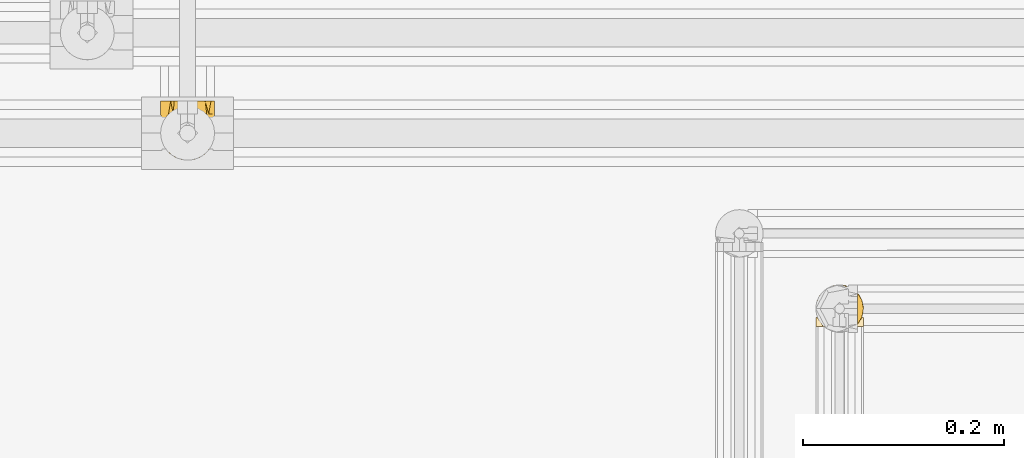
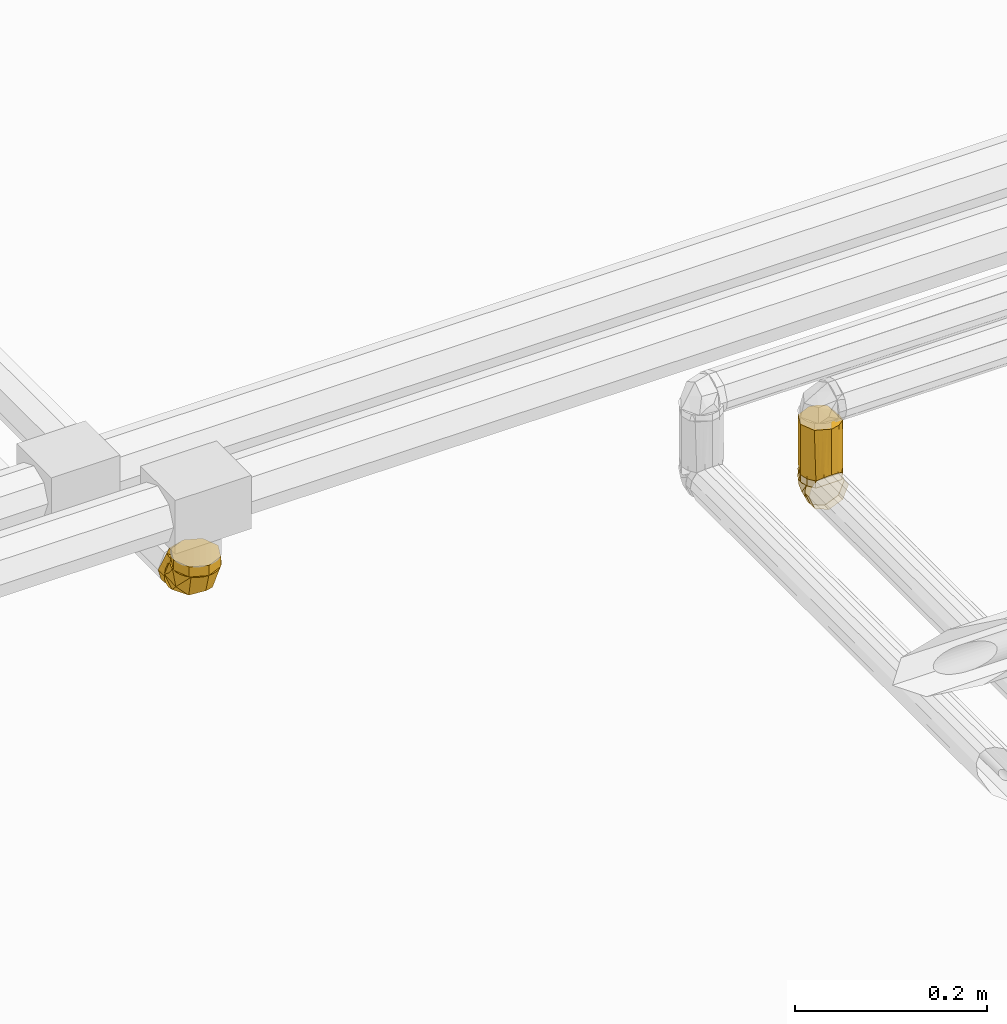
# One storey, part 352 of 652: 3 coverings.
"""IFC2X3 building model written with IfcOpenShell, lengths in millimetres."""

import ifcopenshell
import ifcopenshell.guid

model = None  # the IFC model being written
_history = None  # IfcOwnerHistory: only IFC2X3 demands one
_inside = {}  # id of a spatial element -> (the spatial element, [elements in it])
_under = {}  # id of a project, library or spatial element -> (it, [spatial elements below it])
_declared = {}  # id of a project -> (the project, [libraries it declares])
_typed = {}  # id of a type object -> (the type object, [elements of that type])
_made_of = {}  # id of a material, layer set ... -> (it, [elements and type objects made of it])


def new_model(schema):
    """Start an empty IFC model of exactly this schema.

    Asked for "IFC4X3", IfcOpenShell would pick the latest addendum, in which some entities
    have other attributes; the version numbers below select the first issue.
    IFC2X3 requires an IfcOwnerHistory on every rooted entity: one is made here for all.
    """
    global model, _history
    if schema == "IFC4X3":
        model = ifcopenshell.file(schema_version=(4, 3, 0, 0))
    else:
        model = ifcopenshell.file(schema=schema)
    _inside.clear()
    _under.clear()
    _declared.clear()
    _typed.clear()
    _made_of.clear()
    _history = None
    if model.schema == "IFC2X3":
        org = make("IfcOrganization", Name="unknown")
        user = make(
            "IfcPersonAndOrganization",
            ThePerson=make("IfcPerson", FamilyName="unknown"),
            TheOrganization=org,
        )
        app = make(
            "IfcApplication",
            ApplicationDeveloper=org,
            Version="unknown",
            ApplicationFullName="unknown",
            ApplicationIdentifier="unknown",
        )
        _history = make(
            "IfcOwnerHistory",
            OwningUser=user,
            OwningApplication=app,
            ChangeAction="ADDED",
            CreationDate=0,
        )
    return model


def make(cls, **values):
    """One entity of the class cls with the attributes given. An attribute that is None is left unset."""
    return model.create_entity(
        cls, **{name: value for name, value in values.items() if value is not None}
    )


def entity(cls, *values):
    """Any entity or typed value of the class cls, its attributes in the order of the schema. None: left unset."""
    e = model.create_entity(cls)
    for i, value in enumerate(values):
        if value is not None:
            e[i] = value
    return e


def rooted(cls, **values):
    """An entity with a GlobalId (a new one), such as an element, a storey or a relation."""
    return make(cls, GlobalId=ifcopenshell.guid.new(), OwnerHistory=_history, **values)


def si_unit(unit_type, name, prefix=None):
    """IfcSIUnit, for example si_unit("LENGTHUNIT", "METRE", prefix="MILLI")."""
    return make("IfcSIUnit", UnitType=unit_type, Prefix=prefix, Name=name)


def converted_unit(unit_type, name, factor, base, dimensions=None, offset=None):
    """IfcConversionBasedUnit, such as the inch: factor (a typed value) times the base unit."""
    return make(
        "IfcConversionBasedUnit"
        if offset is None
        else "IfcConversionBasedUnitWithOffset",
        ConversionOffset=offset,
        Dimensions=None
        if dimensions is None
        else entity("IfcDimensionalExponents", *dimensions),
        UnitType=unit_type,
        Name=name,
        ConversionFactor=make(
            "IfcMeasureWithUnit", ValueComponent=factor, UnitComponent=base
        ),
    )


def assignment(units):
    """IfcUnitAssignment: the units of a project."""
    return None if units is None else make("IfcUnitAssignment", Units=units)


def point(xyz):
    """IfcCartesianPoint."""
    return None if xyz is None else make("IfcCartesianPoint", Coordinates=xyz)


def direction(xyz):
    """IfcDirection."""
    return None if xyz is None else make("IfcDirection", DirectionRatios=xyz)


def frame(location, z_axis=None, x_axis=None):
    """IfcAxis2Placement3D, a coordinate frame: its origin and axes. An axis left out is left unset."""
    return make(
        "IfcAxis2Placement3D",
        Location=point(location),
        Axis=direction(z_axis),
        RefDirection=direction(x_axis),
    )


def origin():
    """The frame at (0, 0, 0) with its axes left unset."""
    return frame((0.0, 0.0, 0.0))


def place(relative_to, where):
    """IfcLocalPlacement: puts the frame where relative to a parent placement (None: the world)."""
    return make(
        "IfcLocalPlacement", PlacementRelTo=relative_to, RelativePlacement=where
    )


def context(
    kind, dimensions, precision=None, world=None, true_north=None, identifier=None
):
    """IfcGeometricRepresentationContext, for example the 3D "Model" context."""
    return make(
        "IfcGeometricRepresentationContext",
        ContextIdentifier=identifier,
        ContextType=kind,
        CoordinateSpaceDimension=dimensions,
        Precision=precision,
        WorldCoordinateSystem=world,
        TrueNorth=true_north,
    )


def subcontext(parent, identifier, kind, view, scale=None):
    """IfcGeometricRepresentationSubContext, for example "Body" below "Model"."""
    return make(
        "IfcGeometricRepresentationSubContext",
        ContextIdentifier=identifier,
        ContextType=kind,
        ParentContext=parent,
        TargetScale=scale,
        TargetView=view,
    )


def project(units=None, contexts=None):
    """IfcProject with its units and contexts."""
    return rooted(
        "IfcProject",
        Name="project",
        RepresentationContexts=contexts,
        UnitsInContext=assignment(units),
    )


def spatial(cls, under=None, at=None, **own):
    """A site, building, storey or space (cls), placed at a placement, below another one or the project."""
    s = rooted(cls, ObjectPlacement=at, **own)
    if under is not None:
        _under.setdefault(under.id(), (under, []))[1].append(s)
    return s


def faces_of(points, faces, orient=None, outer=None):
    """IfcFace entities. A face is a list of loops; a loop is a list of indices into points, from 0.

    orient and outer hold one flag for each loop. By default every Orientation is true, the
    first loop of a face is its IfcFaceOuterBound and the others are IfcFaceBound.
    """
    made = []
    for i, loops in enumerate(faces):
        bounds = []
        for j, loop in enumerate(loops):
            is_outer = j == 0 if outer is None else outer[i][j]
            bounds.append(
                make(
                    "IfcFaceOuterBound" if is_outer else "IfcFaceBound",
                    Bound=make("IfcPolyLoop", Polygon=[points[k] for k in loop]),
                    Orientation=True if orient is None else orient[i][j],
                )
            )
        made.append(make("IfcFace", Bounds=bounds))
    return made


def face_set(faces, orient=None, outer=None):
    """The faces of one IfcConnectedFaceSet. surface_model builds it on its shared points."""
    return ("IfcConnectedFaceSet", faces, orient, outer)


def faceted_brep(points, faces, orient=None, outer=None, voids=None):
    """IfcFacetedBrep: a solid bounded by flat faces; with voids (closed shells), ...WithVoids."""
    shared = [point(p) for p in points]
    hull = make("IfcClosedShell", CfsFaces=faces_of(shared, faces, orient, outer))
    if voids is None:
        return make("IfcFacetedBrep", Outer=hull)
    return make(
        "IfcFacetedBrepWithVoids",
        Outer=hull,
        Voids=[
            make(cls, CfsFaces=faces_of(shared, fs, o, b)) for cls, fs, o, b in voids
        ],
    )


def surface_model(cls, points, shells):
    """IfcFaceBasedSurfaceModel or IfcShellBasedSurfaceModel (cls): surfaces that need not close."""
    shared = [point(p) for p in points]
    made = [make(c, CfsFaces=faces_of(shared, fs, o, b)) for c, fs, o, b in shells]
    if cls == "IfcFaceBasedSurfaceModel":
        return make(cls, FbsmFaces=made)
    return make(cls, SbsmBoundary=made)


def shape(context_of_items, identifier, shape_type, items):
    """IfcShapeRepresentation: the items that make up one representation, for example the "Body"."""
    return make(
        "IfcShapeRepresentation",
        ContextOfItems=context_of_items,
        RepresentationIdentifier=identifier,
        RepresentationType=shape_type,
        Items=items,
    )


def material(Name=None, Category=None):
    """IfcMaterial."""
    return make("IfcMaterial", Name=Name, Category=Category)


def made_of(thing, what):
    """Note that an element or type object is made of a material, layer set ...; save() writes the relation."""
    if what is not None:
        _made_of.setdefault(what.id(), (what, []))[1].append(thing)
    return thing


def type_object(cls, material=None, **own):
    """A type object (cls), such as IfcWallType, which elements share."""
    return made_of(rooted(cls, **own), material)


def element(
    cls,
    number,
    at=None,
    inside=None,
    cuts=None,
    type_object=None,
    material=None,
    context=None,
    identifier="Body",
    shape_type=None,
    held_by="IfcProductDefinitionShape",
    body=None,
    shapes=None,
    **own,
):
    """One element of the class cls, such as IfcWall. Its Tag is "e" and its number.

    at: its placement. inside: the storey or other place that contains it. cuts: it is an
    opening in that element (IfcRelVoidsElement). A single representation is given by context,
    identifier, shape_type and body (its items); several are given by shapes. held_by: the class
    of the entity that holds the representations. save() writes the other relations.
    """
    e = rooted(cls, Tag="e%d" % number, ObjectPlacement=at, **own)
    if body is not None:
        shapes = [shape(context, identifier, shape_type, body)]
    if shapes is not None:
        e.Representation = make(held_by, Representations=shapes)
    if inside is not None:
        _inside.setdefault(inside.id(), (inside, []))[1].append(e)
    if cuts is not None:
        rooted(
            "IfcRelVoidsElement", RelatingBuildingElement=cuts, RelatedOpeningElement=e
        )
    if type_object is not None:
        _typed.setdefault(type_object.id(), (type_object, []))[1].append(e)
    return made_of(e, material)


def aggregate(whole, parts):
    """IfcRelAggregates: a whole, such as a stair, and the parts it consists of."""
    return rooted("IfcRelAggregates", RelatingObject=whole, RelatedObjects=parts)


def save(model, path):
    """Write the relations noted so far, then the file.

    IfcRelAggregates (storeys below a building ...), IfcRelContainedInSpatialStructure (elements
    in a storey), IfcRelDefinesByType, IfcRelAssociatesMaterial and IfcRelDeclares: one each for
    every whole, place, type object, material and project.
    """
    for whole, parts in _under.values():
        aggregate(whole, parts)
    for where, things in _inside.values():
        rooted(
            "IfcRelContainedInSpatialStructure",
            RelatedElements=things,
            RelatingStructure=where,
        )
    for kind, things in _typed.values():
        rooted("IfcRelDefinesByType", RelatedObjects=things, RelatingType=kind)
    for what, things in _made_of.values():
        rooted("IfcRelAssociatesMaterial", RelatedObjects=things, RelatingMaterial=what)
    for by, libraries in _declared.values():
        rooted("IfcRelDeclares", RelatingContext=by, RelatedDefinitions=libraries)
    model.write(path)


model = new_model("IFC2X3")

# Units and contexts
model_context = context("Model", 3, precision=0.01, world=frame((0.0, 0.0, 308426.39999999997)), true_north=direction((6.123233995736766e-17, 1.0)))
plan_context = context("Plan", 3, precision=0.01, world=frame((0.0, 0.0, 308426.39999999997)), true_north=direction((6.123233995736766e-17, 1.0)))
body_context = subcontext(model_context, "Body", "Model", "MODEL_VIEW")
ifc_project = project(units=[si_unit("LENGTHUNIT", "METRE", prefix="MILLI"), si_unit("AREAUNIT", "SQUARE_METRE"), si_unit("VOLUMEUNIT", "CUBIC_METRE"), converted_unit("PLANEANGLEUNIT", "DEGREE", entity("IfcPlaneAngleMeasure", 0.017453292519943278), si_unit("PLANEANGLEUNIT", "RADIAN"), dimensions=[0, 0, 0, 0, 0, 0, 0])], contexts=[model_context, plan_context])

# Site, building, storey
site_placement = place(None, origin())
site = spatial("IfcSite", under=ifc_project, at=site_placement, Name="Default", CompositionType="ELEMENT")
building_placement = place(site_placement, origin())
building = spatial("IfcBuilding", under=site, at=building_placement, CompositionType="ELEMENT")
storey_placement = place(building_placement, frame((0.0, 0.0, 1730.6999999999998)))
storey = spatial("IfcBuildingStorey", under=building, at=storey_placement, Name="EG_Produktion_FFB", CompositionType="ELEMENT", Elevation=1730.6999999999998)

# Coverings
ifc_material = material(Name="Dämmung - Armaflex-Schlauch")
covering_type = type_object("IfcCoveringType", Name="Rohrdämmung außen:Armaflex-Schlauch", PredefinedType="INSULATION")
covering_1_placement = place(storey_placement, frame((47271.467227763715, 41496.4656774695, 3731.983750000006)))
element("IfcCovering", 1, at=covering_1_placement, inside=storey, type_object=covering_type, material=ifc_material, Name="Rohrdämmung außen:Armaflex-Schlauch", ObjectType="Rohrdämmung außen:Armaflex-Schlauch", PredefinedType="INSULATION", context=body_context, shape_type="SurfaceModel", body=[
    surface_model("IfcFaceBasedSurfaceModel", [(9.65642195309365, 47.750272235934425, -12.766250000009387), (51.38658262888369, 42.79223424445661, -12.766250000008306), (54.0915642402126, 37.040242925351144, -12.766250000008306), (55.37345654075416, 30.81456370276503, -12.766250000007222), (55.16088498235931, 24.461836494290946, -12.76625000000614), (53.465685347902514, 18.3357751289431, -12.76625000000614), (50.38224474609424, 12.777472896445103, -12.766250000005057), (46.08224622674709, 8.096410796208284, -12.766250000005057), (40.8051096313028, 4.553225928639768, -12.766250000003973), (34.844660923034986, 2.345199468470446, -12.766250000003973), (28.532772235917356, 1.5952722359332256, -12.766250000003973), (22.220883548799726, 2.345199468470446, -12.766250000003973), (16.26043484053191, 4.553225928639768, -12.766250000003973), (10.983298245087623, 8.096410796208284, -12.766250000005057), (6.683299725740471, 12.777472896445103, -12.766250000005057), (3.599859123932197, 18.3357751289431, -12.76625000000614), (1.904659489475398, 24.461836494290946, -12.76625000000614), (1.6920879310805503, 30.81456370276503, -12.766250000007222), (2.973980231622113, 37.040242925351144, -12.766250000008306), (5.678961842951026, 42.79223424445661, -12.766250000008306), (47.409122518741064, 47.750272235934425, -12.766250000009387), (5.678961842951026, 47.750272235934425, -17.724287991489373), (2.973980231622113, 47.750272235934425, -23.476279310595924), (1.6920879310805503, 47.750272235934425, -29.701958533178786), (1.904659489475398, 47.750272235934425, -36.0546857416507), (3.599859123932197, 47.750272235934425, -42.18074710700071), (6.683299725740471, 47.750272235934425, -47.7390493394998), (10.983298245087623, 47.75027223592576, -52.420111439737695), (16.26043484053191, 47.75027223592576, -55.96329630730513), (22.220883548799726, 47.75027223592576, -58.17132276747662), (28.532772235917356, 47.75027223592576, -58.92125000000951), (34.844660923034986, 47.75027223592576, -58.17132276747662), (40.8051096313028, 47.75027223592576, -55.963296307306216), (46.08224622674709, 47.75027223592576, -52.42011143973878), (50.38224474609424, 47.750272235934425, -47.7390493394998), (53.465685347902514, 47.750272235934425, -42.1807471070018), (55.16088498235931, 47.750272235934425, -36.0546857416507), (55.37345654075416, 47.750272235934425, -29.701958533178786), (54.0915642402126, 47.750272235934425, -23.476279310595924), (51.38658262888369, 47.750272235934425, -17.724287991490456), (2.2751428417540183, 39.06880739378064, -22.708823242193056), (28.53400514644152, 7.777694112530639, -35.843486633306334), (3.6006433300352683, 26.95326784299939, -33.5657186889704), (6.340011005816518, 19.45605104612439, -12.766406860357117), (28.53400514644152, 29.48799684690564, -48.376442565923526), (14.283712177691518, 18.67470338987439, -43.1837362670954), (6.340011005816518, 47.75199831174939, -41.06119140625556), (42.77964723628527, 18.67470338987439, -43.1837362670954), (54.78821657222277, 39.06880739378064, -22.708823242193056), (53.46736696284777, 26.95326784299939, -33.5657186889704), (50.72799928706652, 47.75199831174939, -41.06119140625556), (50.72799928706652, 19.45605104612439, -12.766406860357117), (14.247005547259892, 7.512630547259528, 0.0), (19.008927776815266, 5.54017777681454, 0.0), (23.77085000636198, 3.567725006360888, 0.0), (28.532772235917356, 1.5952722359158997, 0.0), (33.29469446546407, 3.567725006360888, 0.0), (38.05661669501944, 5.54017777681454, 0.0), (42.81853892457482, 7.512630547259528, 0.0), (47.5804611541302, 9.485083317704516, 0.0), (49.552913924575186, 14.247005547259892, 0.0), (51.525366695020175, 19.008927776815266, 0.0), (53.49781946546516, 23.77085000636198, 0.0), (55.47027223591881, 28.532772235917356, 0.0), (53.497819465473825, 33.29469446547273, 0.0), (51.525366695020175, 38.05661669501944, 0.0), (49.552913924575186, 42.81853892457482, 0.0), (47.5804611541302, 47.5804611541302, 0.0), (42.81853892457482, 49.552913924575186, 0.0), (38.05661669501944, 51.525366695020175, 0.0), (33.29469446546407, 53.49781946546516, 0.0), (28.532772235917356, 55.47027223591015, 0.0), (23.77085000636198, 53.497819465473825, 0.0), (19.008927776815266, 51.525366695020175, 0.0), (14.247005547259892, 49.552913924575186, 0.0), (9.485083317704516, 47.5804611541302, 0.0), (7.512630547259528, 42.81853892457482, 0.0), (5.54017777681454, 38.05661669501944, 0.0), (3.567725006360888, 33.29469446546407, 0.0), (1.5952722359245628, 28.532772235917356, 0.0), (3.567725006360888, 23.770850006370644, 0.0), (5.54017777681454, 19.008927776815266, 0.0), (7.512630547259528, 14.247005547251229, 0.0), (9.485083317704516, 9.485083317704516, 0.0), (28.532772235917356, 1.5952722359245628, -12.766250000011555), (23.77085000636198, 3.567725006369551, -12.766250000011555), (19.008927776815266, 5.54017777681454, -12.766250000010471), (14.247005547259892, 7.512630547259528, -12.766250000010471), (9.485083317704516, 9.48508331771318, -12.766250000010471), (7.095738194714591, 15.253472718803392, -12.766250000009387), (4.706393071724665, 21.02186211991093, -12.766250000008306), (1.5952722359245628, 28.532772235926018, -12.766250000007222), (3.567725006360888, 33.29469446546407, -12.76625000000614), (5.54017777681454, 38.05661669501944, -12.76625000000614), (7.512630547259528, 42.81853892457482, -12.766250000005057), (9.485083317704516, 47.58046115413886, -12.766250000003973), (15.253472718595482, 49.96980627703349, -12.766250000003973), (21.021862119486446, 52.35915139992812, -12.766250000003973), (28.532772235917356, 55.47027223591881, -12.766250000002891), (33.29469446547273, 53.49781946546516, -12.766250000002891), (38.05661669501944, 51.525366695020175, -12.766250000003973), (42.81853892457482, 49.552913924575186, -12.766250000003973), (47.5804611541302, 47.58046115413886, -12.766250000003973), (49.96980627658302, 41.8120717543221, -12.766250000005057), (52.359151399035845, 36.043682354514, -12.76625000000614), (55.47027223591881, 28.532772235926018, -12.766250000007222), (53.49781946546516, 23.77085000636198, -12.766250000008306), (51.525366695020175, 19.008927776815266, -12.766250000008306), (49.552913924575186, 14.247005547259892, -12.766250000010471), (47.5804611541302, 9.48508331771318, -12.766250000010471), (41.81207177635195, 7.095738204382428, -12.766250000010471), (36.0436823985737, 4.706393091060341, -12.766250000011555), (28.532772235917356, 60.51652223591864, -58.921250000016), (22.700632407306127, 60.516522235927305, -55.554062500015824), (16.868492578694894, 60.516522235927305, -52.18687500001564), (11.036352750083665, 60.516522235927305, -48.81968750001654), (5.204212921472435, 60.51652223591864, -45.45250000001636), (3.3997425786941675, 60.51652223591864, -38.718125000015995), (1.5952722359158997, 60.51652223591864, -31.983750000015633), (4.962459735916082, 60.516522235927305, -26.151610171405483), (8.329647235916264, 60.516522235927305, -20.319470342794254), (11.696834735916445, 60.51652223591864, -14.487330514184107), (15.064022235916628, 60.51652223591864, -8.655190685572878), (21.79839723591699, 60.51652223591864, -6.850720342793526), (28.532772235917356, 60.51652223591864, -5.046250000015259), (34.36491206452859, 60.516522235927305, -8.41343750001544), (40.197051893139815, 60.516522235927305, -11.780625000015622), (46.02919172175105, 60.516522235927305, -15.147812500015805), (51.86133155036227, 60.51652223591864, -18.515000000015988), (53.66580189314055, 60.51652223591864, -25.24937500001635), (55.47027223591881, 60.51652223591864, -31.983750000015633), (52.10308473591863, 60.516522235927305, -37.81588982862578), (48.73589723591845, 60.516522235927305, -43.64802965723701), (45.368709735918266, 60.516522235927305, -49.480169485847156), (42.00152223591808, 60.51652223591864, -55.31230931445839), (35.26714723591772, 60.51652223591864, -57.116779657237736), (28.532772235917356, 47.75027223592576, -58.921250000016), (33.29469446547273, 47.75027223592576, -56.948797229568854), (38.05661669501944, 47.75027223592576, -54.9763444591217), (42.81853892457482, 47.75027223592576, -53.00389168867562), (47.5804611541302, 47.75027223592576, -51.031438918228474), (49.552913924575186, 47.75027223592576, -46.26951668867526), (51.525366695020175, 47.75027223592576, -41.50759445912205), (53.49781946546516, 47.75027223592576, -36.74567222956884), (55.47027223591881, 47.75027223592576, -31.983750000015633), (53.497819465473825, 47.75027223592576, -27.221827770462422), (51.525366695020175, 47.75027223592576, -22.45990554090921), (49.552913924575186, 47.75027223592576, -17.697983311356), (47.5804611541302, 47.75027223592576, -12.936061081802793), (42.81853892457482, 47.75027223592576, -10.96360831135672), (38.05661669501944, 47.75027223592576, -8.991155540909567), (33.29469446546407, 47.75027223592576, -7.018702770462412), (28.532772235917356, 47.75027223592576, -5.046250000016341), (23.77085000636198, 47.75027223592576, -7.018702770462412), (19.008927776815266, 47.75027223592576, -8.991155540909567), (14.247005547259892, 47.75027223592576, -10.963608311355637), (9.485083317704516, 47.75027223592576, -12.936061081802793), (7.512630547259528, 47.75027223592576, -17.697983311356), (5.54017777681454, 47.75027223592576, -22.45990554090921), (3.567725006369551, 47.75027223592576, -27.221827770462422), (1.5952722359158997, 47.75027223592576, -31.983750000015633), (3.567725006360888, 47.75027223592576, -36.74567222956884), (5.54017777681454, 47.75027223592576, -41.50759445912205), (7.512630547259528, 47.75027223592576, -46.26951668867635), (9.485083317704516, 47.75027223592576, -51.031438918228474), (14.247005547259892, 47.75027223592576, -53.00389168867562), (19.008927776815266, 47.75027223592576, -54.9763444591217), (23.77085000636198, 47.75027223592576, -56.948797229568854)], [face_set([[[0, 1, 2, 3, 4, 5, 6, 7, 8, 9, 10, 11, 12, 13, 14, 15, 16, 17, 18, 19]], [[20, 21, 22, 23, 24, 25, 26, 27, 28, 29, 30, 31, 32, 33, 34, 35, 36, 37, 38, 39]], [[0, 40, 17]], [[10, 13, 41]], [[23, 42, 40]], [[42, 13, 43]], [[23, 40, 0]], [[17, 40, 42]], [[44, 41, 45]], [[13, 45, 41]], [[27, 30, 44]], [[44, 45, 27]], [[42, 27, 45]], [[42, 23, 46]], [[13, 42, 45]], [[43, 17, 42]], [[46, 27, 42]], [[7, 10, 41]], [[33, 47, 44]], [[44, 30, 33]], [[48, 49, 37]], [[49, 33, 50, 37]], [[3, 49, 48]], [[44, 47, 41]], [[20, 48, 37]], [[47, 49, 7]], [[3, 48, 20]], [[41, 47, 7]], [[49, 3, 51, 7]], [[33, 49, 47]]]), face_set([[[52, 53, 54, 55, 56, 57, 58, 59, 60, 61, 62, 63, 64, 65, 66, 67, 68, 69, 70, 71, 72, 73, 74, 75, 76, 77, 78, 79, 80, 81, 82, 83]], [[84, 85, 86, 87, 88, 89, 90, 91, 92, 93, 94, 95, 96, 97, 98, 99, 100, 101, 102, 103, 104, 105, 106, 107, 108, 109, 110, 111]], [[111, 110, 109, 59, 58, 57, 56, 55, 84]], [[59, 109, 108, 107, 106, 105, 63, 62, 61, 60]], [[104, 103, 102, 67, 66, 65, 64, 63, 105]], [[67, 102, 101, 100, 99, 98, 71, 70, 69, 68]], [[97, 96, 95, 75, 74, 73, 72, 71, 98]], [[75, 95, 94, 93, 92, 91, 79, 78, 77, 76]], [[90, 89, 88, 83, 82, 81, 80, 79, 91]], [[83, 88, 87, 86, 85, 84, 55, 54, 53, 52]]]), face_set([[[112, 113, 114, 115, 116, 117, 118, 119, 120, 121, 122, 123, 124, 125, 126, 127, 128, 129, 130, 131, 132, 133, 134, 135]], [[136, 137, 138, 139, 140, 141, 142, 143, 144, 145, 146, 147, 148, 149, 150, 151, 152, 153, 154, 155, 156, 157, 158, 159, 160, 161, 162, 163, 164, 165, 166, 167]], [[155, 121, 156]], [[118, 159, 119]], [[159, 158, 119]], [[123, 154, 153]], [[153, 152, 124]], [[121, 155, 122]], [[120, 158, 157]], [[118, 160, 159]], [[158, 120, 119]], [[124, 123, 153]], [[157, 156, 121]], [[155, 154, 122]], [[123, 122, 154]], [[120, 157, 121]], [[163, 115, 164]], [[112, 167, 113]], [[167, 166, 113]], [[117, 162, 161]], [[161, 160, 118]], [[115, 163, 116]], [[114, 166, 165]], [[112, 136, 167]], [[166, 114, 113]], [[118, 117, 161]], [[165, 164, 115]], [[163, 162, 116]], [[117, 116, 162]], [[114, 165, 115]], [[139, 133, 140]], [[130, 143, 131]], [[143, 142, 131]], [[135, 138, 137]], [[137, 136, 112]], [[133, 139, 134]], [[132, 142, 141]], [[130, 144, 143]], [[142, 132, 131]], [[112, 135, 137]], [[141, 140, 133]], [[139, 138, 134]], [[135, 134, 138]], [[132, 141, 133]], [[147, 127, 148]], [[124, 151, 125]], [[151, 150, 125]], [[129, 146, 145]], [[145, 144, 130]], [[127, 147, 128]], [[126, 150, 149]], [[124, 152, 151]], [[150, 126, 125]], [[130, 129, 145]], [[149, 148, 127]], [[147, 146, 128]], [[129, 128, 146]], [[126, 149, 127]]])]),
])
covering_2_placement = place(storey_placement, frame((47924.642227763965, 41330.60952881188, 3674.6422277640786)))
element("IfcCovering", 2, at=covering_2_placement, inside=storey, type_object=covering_type, material=ifc_material, Name="Rohrdämmung außen:Armaflex-Schlauch", ObjectType="Rohrdämmung außen:Armaflex-Schlauch", PredefinedType="INSULATION", context=body_context, shape_type="SurfaceModel", body=[
    surface_model("IfcFaceBasedSurfaceModel", [(3.3372686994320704, 10.458420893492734, 34.28827223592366), (1.8303409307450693, 10.458420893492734, 28.691896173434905), (1.7230119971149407, 10.458420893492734, 22.89717988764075), (3.0216666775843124, 10.458420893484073, 17.248839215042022), (5.649050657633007, 10.458420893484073, 12.082882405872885), (9.448866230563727, 10.458420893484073, 7.706621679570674), (14.19507012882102, 10.458420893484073, 4.38039184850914), (19.605320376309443, 10.458420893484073, 2.3020635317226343), (25.35777223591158, 10.458420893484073, 1.5952722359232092), (31.11022409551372, 10.458420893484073, 2.3020635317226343), (36.52047434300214, 10.458420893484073, 4.38039184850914), (41.266678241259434, 10.458420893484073, 7.706621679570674), (45.06649381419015, 10.458420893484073, 12.082882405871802), (47.69387779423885, 10.458420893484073, 17.248839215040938), (48.99253247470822, 10.458420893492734, 22.89717988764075), (48.88520354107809, 10.458420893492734, 28.691896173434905), (47.37827577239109, 10.458420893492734, 34.28827223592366), (48.88520354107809, 16.054796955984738, 34.28827223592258), (48.99253247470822, 21.84951324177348, 34.28827223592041), (47.69387779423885, 27.497853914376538, 34.28827223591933), (45.06649381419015, 32.66381072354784, 34.28827223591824), (41.266678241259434, 37.04007144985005, 34.28827223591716), (36.52047434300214, 40.36630128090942, 34.28827223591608), (31.11022409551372, 42.44462959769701, 34.288272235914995), (25.35777223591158, 43.151420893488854, 34.288272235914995), (19.605320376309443, 42.44462959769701, 34.288272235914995), (14.19507012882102, 40.36630128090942, 34.28827223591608), (9.448866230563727, 37.04007144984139, 34.28827223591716), (5.649050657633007, 32.66381072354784, 34.28827223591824), (3.0216666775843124, 27.497853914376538, 34.28827223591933), (1.7230119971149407, 21.84951324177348, 34.28827223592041), (1.8303409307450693, 16.054796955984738, 34.28827223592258), (2.999764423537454, 25.363823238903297, 26.16635530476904), (9.497042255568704, 27.879948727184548, 14.151391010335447), (4.478743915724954, 21.433830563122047, 34.28853395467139), (15.617598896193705, 10.457756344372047, 6.778003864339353), (25.356539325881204, 26.805595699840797, 5.975145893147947), (15.501326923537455, 37.907243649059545, 34.28853395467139), (25.356539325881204, 35.605058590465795, 21.220145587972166), (2.139351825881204, 17.53639403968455, 22.222991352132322), (4.492696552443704, 10.457756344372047, 23.185723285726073), (47.71796510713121, 25.363823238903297, 26.16635530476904), (48.5737268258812, 17.53639403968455, 22.222991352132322), (41.21603639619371, 27.879948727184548, 14.151391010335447), (35.095479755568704, 10.457756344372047, 6.778003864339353), (46.234334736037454, 21.433830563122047, 34.28853395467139), (35.095479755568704, 37.9677050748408, 34.28853395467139), (25.356539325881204, 34.977189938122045, 20.131839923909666), (46.220382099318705, 10.457756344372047, 23.185723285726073), (1.5951989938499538, 1.4397021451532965, 25.35768373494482), (1.5951989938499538, 10.457756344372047, 25.35768373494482), (8.552913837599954, 10.457756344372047, 8.555220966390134), (8.552913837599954, 1.4397021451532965, 8.555220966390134), (25.356539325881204, 10.457756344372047, 1.5951806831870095), (25.356539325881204, 1.4397021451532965, 1.5951806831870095), (42.16016481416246, 10.457756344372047, 8.555220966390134), (42.16016481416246, 1.4397021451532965, 8.555220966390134), (49.12253053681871, 10.457756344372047, 25.35768373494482), (49.12253053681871, 1.4397021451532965, 25.35768373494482), (46.14995973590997, 24.5336530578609, 43.30802223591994), (43.179647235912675, 29.67838522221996, 43.308022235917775), (40.20933473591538, 34.82311738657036, 43.30802223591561), (37.239022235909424, 39.96784955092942, 43.30802223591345), (31.29839723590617, 41.55963522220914, 43.30802223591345), (25.35777223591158, 43.151420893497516, 43.30802223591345), (20.21304007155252, 40.181108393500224, 43.30802223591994), (15.068307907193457, 37.210795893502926, 43.308022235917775), (9.92357574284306, 34.24048339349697, 43.30802223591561), (4.778843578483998, 31.270170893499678, 43.30802223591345), (3.1870579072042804, 25.329545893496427, 43.30802223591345), (1.5952722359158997, 19.388920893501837, 43.30802223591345), (2.6431209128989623, 14.51024101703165, 43.308022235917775), (3.690969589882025, 9.631561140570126, 43.30802223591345), (6.64968879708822, 5.613416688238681, 43.30802223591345), (9.608408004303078, 1.5952722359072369, 43.30802223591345), (41.107136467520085, 1.5952722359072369, 43.30802223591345), (44.06585567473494, 5.613416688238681, 43.308022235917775), (47.024574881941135, 9.631561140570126, 43.30802223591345), (48.0724235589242, 14.51024101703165, 43.30802223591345), (49.12027223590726, 19.388920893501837, 43.30802223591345), (42.160397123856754, 36.19154578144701, 34.2882722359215), (43.90036590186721, 31.990889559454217, 34.2882722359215), (45.64033467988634, 27.79023333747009, 34.2882722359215), (47.3803034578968, 23.589577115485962, 34.2882722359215), (49.12027223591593, 19.388920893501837, 34.2882722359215), (48.0724235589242, 14.51024101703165, 34.2882722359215), (47.024574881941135, 9.631561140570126, 34.2882722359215), (43.985875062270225, 5.504797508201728, 34.2882722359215), (41.10713646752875, 1.5952722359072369, 34.2882722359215), (9.608408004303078, 1.5952722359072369, 34.2882722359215), (6.64968879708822, 5.613416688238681, 34.2882722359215), (3.690969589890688, 9.631561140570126, 34.2882722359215), (2.614795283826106, 14.642122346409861, 34.2882722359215), (1.5952722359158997, 19.388920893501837, 34.2882722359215), (3.3352410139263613, 23.589577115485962, 34.2882722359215), (5.075209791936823, 27.79023333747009, 34.2882722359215), (6.815178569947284, 31.990889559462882, 34.2882722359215), (8.55514734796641, 36.19154578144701, 34.2882722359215), (12.755803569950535, 37.93151455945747, 34.2882722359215), (16.956459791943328, 39.671483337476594, 34.2882722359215), (21.157116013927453, 41.41145211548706, 34.2882722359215), (25.35777223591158, 43.151420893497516, 34.2882722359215), (29.558428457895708, 41.41145211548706, 34.2882722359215), (33.759084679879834, 39.671483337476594, 34.2882722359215), (37.95974090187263, 37.93151455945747, 34.2882722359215)], [face_set([[[0, 1, 2, 3, 4, 5, 6, 7, 8, 9, 10, 11, 12, 13, 14, 15]], [[16, 17, 18, 19, 20, 21, 22, 23, 24, 25, 26, 27, 28, 29, 30, 31]], [[32, 28, 33]], [[32, 34, 28]], [[33, 35, 4]], [[35, 33, 36]], [[36, 8, 35]], [[33, 37, 38]], [[39, 4, 40]], [[32, 33, 39]], [[34, 32, 0]], [[4, 39, 33]], [[38, 36, 33]], [[0, 32, 39]], [[33, 28, 37]], [[37, 24, 38]], [[0, 39, 40]], [[41, 16, 42]], [[43, 44, 36]], [[20, 45, 41]], [[46, 43, 47]], [[44, 8, 36]], [[12, 43, 42]], [[44, 43, 12]], [[42, 16, 48]], [[20, 43, 46]], [[16, 41, 45]], [[43, 41, 42]], [[43, 36, 47]], [[47, 24, 46]], [[20, 41, 43]], [[48, 12, 42]]]), face_set([[[49, 50, 51, 52]], [[53, 54, 52, 51]], [[54, 53, 55, 56]], [[57, 58, 56, 55]]]), face_set([[[59, 60, 61, 62, 63, 64, 65, 66, 67, 68, 69, 70, 71, 72, 73, 74, 75, 76, 77, 78, 79]], [[80, 81, 82, 83, 84, 85, 86, 87, 88, 89, 90, 91, 92, 93, 94, 95, 96, 97, 98, 99, 100, 101, 102, 103, 104]], [[75, 74, 89, 88]], [[71, 70, 93, 92, 91, 72]], [[73, 72, 91, 90, 89, 74]], [[96, 67, 97]], [[64, 100, 65]], [[100, 99, 65]], [[69, 95, 94]], [[94, 93, 70]], [[67, 96, 68]], [[66, 99, 98]], [[64, 101, 100]], [[99, 66, 65]], [[70, 69, 94]], [[98, 97, 67]], [[96, 95, 68]], [[69, 68, 95]], [[66, 98, 67]], [[104, 61, 80]], [[79, 83, 59]], [[83, 82, 59]], [[63, 103, 102]], [[102, 101, 64]], [[61, 104, 62]], [[60, 82, 81]], [[79, 84, 83]], [[82, 60, 59]], [[64, 63, 102]], [[81, 80, 61]], [[104, 103, 62]], [[63, 62, 103]], [[60, 81, 61]], [[76, 75, 88, 87, 86, 77]], [[78, 77, 86, 85, 84, 79]]])]),
])
covering_3_placement = place(storey_placement, frame((47924.642227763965, 41324.64067746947, 3783.645022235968)))
element("IfcCovering", 3, at=covering_3_placement, inside=storey, type_object=covering_type, material=ifc_material, Name="Rohrdämmung außen:Armaflex-Schlauch", ObjectType="Rohrdämmung außen:Armaflex-Schlauch", PredefinedType="INSULATION", context=body_context, shape_type="Brep", body=[
    faceted_brep([(25.35777223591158, 49.12027223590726, -65.69477223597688), (29.558428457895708, 47.3803034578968, -65.69477223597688), (33.759084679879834, 45.64033467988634, -65.69477223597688), (37.95974090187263, 43.90036590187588, -65.69477223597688), (42.160397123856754, 42.160397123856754, -65.69477223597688), (43.90036590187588, 37.95974090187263, -65.69477223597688), (45.64033467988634, 33.759084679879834, -65.69477223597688), (47.3803034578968, 29.558428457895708, -65.69477223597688), (49.12027223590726, 25.35777223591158, -65.69477223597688), (48.047093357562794, 20.42323069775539, -65.69477223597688), (46.97391447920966, 15.488689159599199, -65.69477223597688), (43.951164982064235, 11.448105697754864, -65.69477223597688), (40.92841548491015, 7.407522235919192, -65.69477223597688), (9.78712898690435, 7.407522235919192, -65.69477223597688), (6.764379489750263, 11.448105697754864, -65.69477223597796), (3.7416299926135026, 15.488689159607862, -65.69477223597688), (2.6684511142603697, 20.42323069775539, -65.69477223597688), (1.5952722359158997, 25.35777223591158, -65.69477223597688), (3.6487397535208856, 30.315281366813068, -65.69477223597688), (5.075209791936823, 33.759084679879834, -65.69477223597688), (6.815178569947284, 37.95974090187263, -65.69477223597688), (8.55514734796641, 42.160397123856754, -65.69477223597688), (12.755803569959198, 43.90036590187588, -65.69477223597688), (16.956459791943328, 45.64033467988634, -65.69477223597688), (21.157116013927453, 47.3803034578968, -65.69477223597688), (12.755803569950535, 6.815178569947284, -1.5952722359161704), (16.956459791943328, 5.075209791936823, -1.5952722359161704), (21.157116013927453, 3.3352410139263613, -1.5952722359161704), (25.35777223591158, 1.5952722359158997, -1.5952722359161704), (30.292313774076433, 2.6684511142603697, -1.5952722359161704), (35.22685531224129, 3.7416299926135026, -1.5952722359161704), (39.26743877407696, 6.764379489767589, -1.5952722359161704), (43.30802223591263, 9.787128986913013, -1.5952722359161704), (43.30802223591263, 40.92841548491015, -1.5952722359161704), (39.26743877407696, 43.95116498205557, -1.5952722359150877), (35.22685531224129, 46.97391447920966, -1.5952722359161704), (30.292313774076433, 48.047093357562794, -1.5952722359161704), (25.35777223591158, 49.12027223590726, -1.5952722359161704), (20.400263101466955, 47.06680471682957, -1.5952722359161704), (15.442753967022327, 45.013337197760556, -1.5952722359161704), (8.55514734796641, 42.160397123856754, -1.5952722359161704), (6.815178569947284, 37.95974090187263, -1.5952722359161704), (5.075209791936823, 33.759084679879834, -1.5952722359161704), (3.3352410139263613, 29.558428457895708, -1.5952722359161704), (1.5952722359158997, 25.35777223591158, -1.5952722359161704), (3.6487397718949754, 20.400263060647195, -1.5952722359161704), (5.075209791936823, 16.956459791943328, -1.5952722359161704), (6.815178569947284, 12.755803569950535, -1.5952722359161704), (8.55514734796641, 8.55514734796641, -1.5952722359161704), (17.04773040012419, 3.095705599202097, -61.38295559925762), (21.202751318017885, 2.345488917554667, -60.632738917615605), (25.35777223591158, 1.5952722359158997, -59.88252223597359), (13.41742969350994, 5.251613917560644, -63.53886391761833), (45.46393055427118, 37.29811477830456, -3.751180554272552), (47.61983887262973, 33.66781407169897, -5.907088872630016), (48.3700555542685, 29.512793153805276, -6.657305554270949), (49.12027223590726, 25.35777223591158, -7.407522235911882), (45.46393055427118, 13.417429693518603, -3.751180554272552), (47.61983887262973, 17.04773040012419, -5.907088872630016), (48.147323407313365, 19.969165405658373, -6.434573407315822), (29.512793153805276, 2.345488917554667, -60.63273891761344), (37.29811477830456, 5.251613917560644, -63.53886391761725), (33.66781407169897, 3.095705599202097, -61.38295559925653)], [[[0, 1, 2, 3, 4, 5, 6, 7, 8, 9, 10, 11, 12, 13, 14, 15, 16, 17, 18, 19, 20, 21, 22, 23, 24]], [[25, 26, 27, 28, 29, 30, 31, 32, 33, 34, 35, 36, 37, 38, 39, 40, 41, 42, 43, 44, 45, 46, 47, 48]], [[27, 49, 50]], [[28, 50, 51]], [[50, 28, 27]], [[13, 25, 48]], [[52, 26, 25]], [[26, 49, 27]], [[46, 16, 15]], [[48, 14, 13]], [[52, 49, 26]], [[44, 16, 46, 45]], [[47, 15, 14]], [[44, 17, 16]], [[25, 13, 52]], [[14, 48, 47]], [[47, 46, 15]], [[37, 0, 24, 23, 22, 21, 40, 39, 38]], [[20, 19, 18, 17, 44, 43, 42, 41, 40, 21]], [[37, 1, 0]], [[5, 33, 53]], [[4, 34, 33]], [[36, 2, 1]], [[3, 35, 34]], [[4, 33, 5]], [[53, 54, 6]], [[55, 56, 8]], [[36, 35, 2]], [[53, 6, 5]], [[34, 4, 3]], [[7, 54, 55]], [[3, 2, 35]], [[1, 37, 36]], [[6, 54, 7]], [[55, 8, 7]], [[57, 32, 11]], [[58, 9, 56, 59]], [[9, 58, 10]], [[56, 9, 8]], [[57, 11, 10]], [[12, 32, 31]], [[60, 28, 51]], [[10, 58, 57]], [[61, 12, 31]], [[62, 30, 29]], [[30, 62, 61]], [[32, 12, 11]], [[30, 61, 31]], [[60, 62, 29]], [[28, 60, 29]], [[12, 61, 62, 60, 51, 50, 49, 52, 13]], [[32, 57, 58, 59, 56, 55, 54, 53, 33]]]),
])

save(model, "model.ifc")
